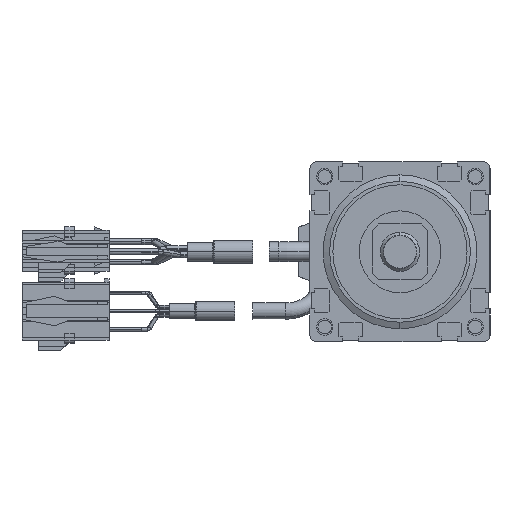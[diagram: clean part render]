
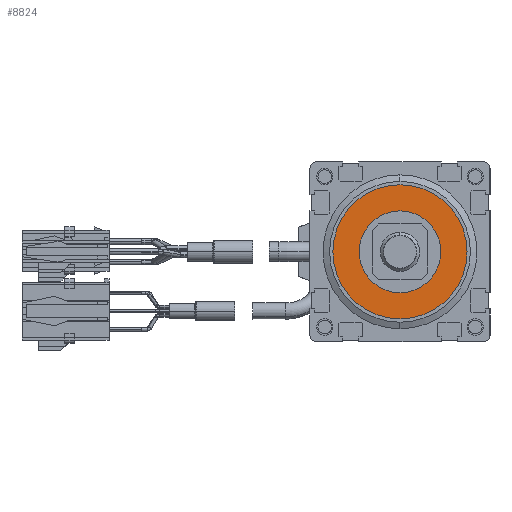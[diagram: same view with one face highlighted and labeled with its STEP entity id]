
A CAD part, left-side view. The second image highlights one B-rep face of the part: STEP entity #8824.
In plain terms, the highlighted planar face has unit normal (-1, 0, 0).
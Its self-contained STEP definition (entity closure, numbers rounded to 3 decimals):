
#2322=CARTESIAN_POINT('',(-241.,0.,0.));
#2323=DIRECTION('',(1.,0.,0.));
#2324=DIRECTION('',(0.,1.,0.));
#2325=AXIS2_PLACEMENT_3D('',#2322,#2323,#2324);
#2327=CARTESIAN_POINT('',(-241.,0.,0.));
#2328=DIRECTION('',(1.,0.,0.));
#2329=DIRECTION('',(0.,-1.,0.));
#2330=AXIS2_PLACEMENT_3D('',#2327,#2328,#2329);
#2332=CARTESIAN_POINT('',(-241.,0.,0.));
#2333=DIRECTION('',(-1.,0.,0.));
#2334=DIRECTION('',(0.,0.,1.));
#2335=AXIS2_PLACEMENT_3D('',#2332,#2333,#2334);
#2337=CARTESIAN_POINT('',(-241.,0.,0.));
#2338=DIRECTION('',(-1.,0.,0.));
#2339=DIRECTION('',(0.,0.,-1.));
#2340=AXIS2_PLACEMENT_3D('',#2337,#2338,#2339);
#4289=CARTESIAN_POINT('',(-241.,20.5,0.));
#4290=VERTEX_POINT('',#4289);
#4291=CARTESIAN_POINT('',(-241.,-20.5,0.));
#4292=VERTEX_POINT('',#4291);
#5455=CARTESIAN_POINT('',(-241.,0.,12.5));
#5456=CARTESIAN_POINT('',(-241.,0.,-12.5));
#5457=VERTEX_POINT('',#5455);
#5458=VERTEX_POINT('',#5456);
#8809=CARTESIAN_POINT('',(-241.,0.,0.));
#8810=DIRECTION('',(1.,0.,0.));
#8811=DIRECTION('',(0.,1.,0.));
#8812=AXIS2_PLACEMENT_3D('',#8809,#8810,#8811);
#8813=PLANE('',#8812);
#8814=ORIENTED_EDGE('',*,*,#8789,.T.);
#8815=ORIENTED_EDGE('',*,*,#8803,.T.);
#8816=EDGE_LOOP('',(#8814,#8815));
#8817=FACE_OUTER_BOUND('',#8816,.F.);
#8819=ORIENTED_EDGE('',*,*,#8818,.T.);
#8821=ORIENTED_EDGE('',*,*,#8820,.T.);
#8822=EDGE_LOOP('',(#8819,#8821));
#8823=FACE_BOUND('',#8822,.F.);
#8824=ADVANCED_FACE('',(#8817,#8823),#8813,.F.);
#2326=CIRCLE('',#2325,20.5);
#2331=CIRCLE('',#2330,20.5);
#2336=CIRCLE('',#2335,12.5);
#2341=CIRCLE('',#2340,12.5);
#8789=EDGE_CURVE('',#4290,#4292,#2326,.T.);
#8803=EDGE_CURVE('',#4292,#4290,#2331,.T.);
#8818=EDGE_CURVE('',#5457,#5458,#2336,.T.);
#8820=EDGE_CURVE('',#5458,#5457,#2341,.T.);
